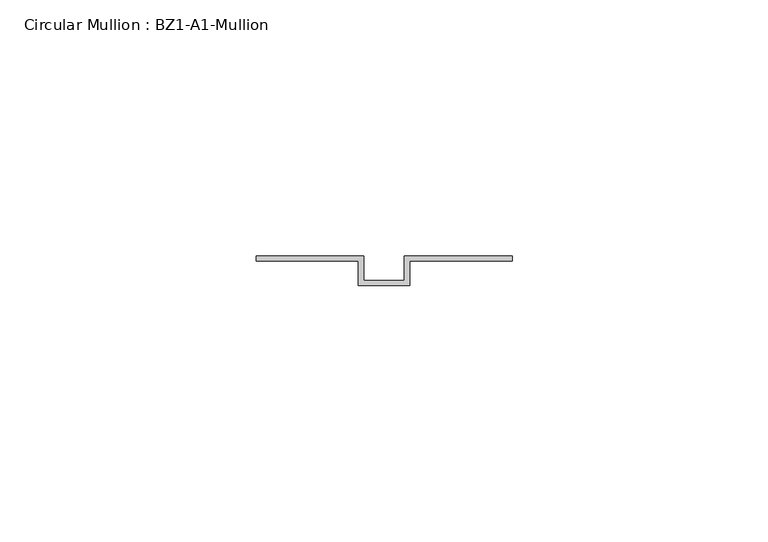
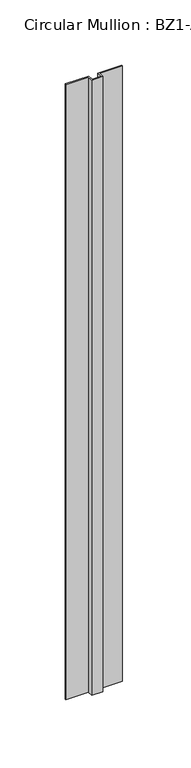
"""IFC4 building model written with IfcOpenShell, lengths in millimetres: member geometry, Circular Mullion : BZ1-A1-Mullion."""

import ifcopenshell
import ifcopenshell.guid

model = None  # the IFC model being written
_history = None  # IfcOwnerHistory: only IFC2X3 demands one
_inside = {}  # id of a spatial element -> (the spatial element, [elements in it])
_under = {}  # id of a project, library or spatial element -> (it, [spatial elements below it])
_declared = {}  # id of a project -> (the project, [libraries it declares])
_typed = {}  # id of a type object -> (the type object, [elements of that type])
_made_of = {}  # id of a material, layer set ... -> (it, [elements and type objects made of it])


def new_model(schema):
    """Start an empty IFC model of exactly this schema.

    Asked for "IFC4X3", IfcOpenShell would pick the latest addendum, in which some entities
    have other attributes; the version numbers below select the first issue.
    IFC2X3 requires an IfcOwnerHistory on every rooted entity: one is made here for all.
    """
    global model, _history
    if schema == "IFC4X3":
        model = ifcopenshell.file(schema_version=(4, 3, 0, 0))
    else:
        model = ifcopenshell.file(schema=schema)
    _inside.clear()
    _under.clear()
    _declared.clear()
    _typed.clear()
    _made_of.clear()
    _history = None
    if model.schema == "IFC2X3":
        org = make("IfcOrganization", Name="unknown")
        user = make(
            "IfcPersonAndOrganization",
            ThePerson=make("IfcPerson", FamilyName="unknown"),
            TheOrganization=org,
        )
        app = make(
            "IfcApplication",
            ApplicationDeveloper=org,
            Version="unknown",
            ApplicationFullName="unknown",
            ApplicationIdentifier="unknown",
        )
        _history = make(
            "IfcOwnerHistory",
            OwningUser=user,
            OwningApplication=app,
            ChangeAction="ADDED",
            CreationDate=0,
        )
    return model


def make(cls, **values):
    """One entity of the class cls with the attributes given. An attribute that is None is left unset."""
    return model.create_entity(
        cls, **{name: value for name, value in values.items() if value is not None}
    )


def rooted(cls, **values):
    """An entity with a GlobalId (a new one), such as an element, a storey or a relation."""
    return make(cls, GlobalId=ifcopenshell.guid.new(), OwnerHistory=_history, **values)


def si_unit(unit_type, name, prefix=None):
    """IfcSIUnit, for example si_unit("LENGTHUNIT", "METRE", prefix="MILLI")."""
    return make("IfcSIUnit", UnitType=unit_type, Prefix=prefix, Name=name)


def assignment(units):
    """IfcUnitAssignment: the units of a project."""
    return None if units is None else make("IfcUnitAssignment", Units=units)


def point(xyz):
    """IfcCartesianPoint."""
    return None if xyz is None else make("IfcCartesianPoint", Coordinates=xyz)


def direction(xyz):
    """IfcDirection."""
    return None if xyz is None else make("IfcDirection", DirectionRatios=xyz)


def frame(location, z_axis=None, x_axis=None):
    """IfcAxis2Placement3D, a coordinate frame: its origin and axes. An axis left out is left unset."""
    return make(
        "IfcAxis2Placement3D",
        Location=point(location),
        Axis=direction(z_axis),
        RefDirection=direction(x_axis),
    )


def origin():
    """The frame at (0, 0, 0) with its axes left unset."""
    return frame((0.0, 0.0, 0.0))


def place(relative_to, where):
    """IfcLocalPlacement: puts the frame where relative to a parent placement (None: the world)."""
    return make(
        "IfcLocalPlacement", PlacementRelTo=relative_to, RelativePlacement=where
    )


def context(
    kind, dimensions, precision=None, world=None, true_north=None, identifier=None
):
    """IfcGeometricRepresentationContext, for example the 3D "Model" context."""
    return make(
        "IfcGeometricRepresentationContext",
        ContextIdentifier=identifier,
        ContextType=kind,
        CoordinateSpaceDimension=dimensions,
        Precision=precision,
        WorldCoordinateSystem=world,
        TrueNorth=true_north,
    )


def project(units=None, contexts=None):
    """IfcProject with its units and contexts."""
    return rooted(
        "IfcProject",
        Name="project",
        RepresentationContexts=contexts,
        UnitsInContext=assignment(units),
    )


def spatial(cls, under=None, at=None, **own):
    """A site, building, storey or space (cls), placed at a placement, below another one or the project."""
    s = rooted(cls, ObjectPlacement=at, **own)
    if under is not None:
        _under.setdefault(under.id(), (under, []))[1].append(s)
    return s


def polyline(points):
    """IfcPolyline through the points."""
    return make("IfcPolyline", Points=[point(p) for p in points])


def outline(outer, holes=None, kind="AREA"):
    """IfcArbitraryClosedProfileDef: a profile drawn as a closed curve; with holes, ...WithVoids."""
    if holes is None:
        return make("IfcArbitraryClosedProfileDef", ProfileType=kind, OuterCurve=outer)
    return make(
        "IfcArbitraryProfileDefWithVoids",
        ProfileType=kind,
        OuterCurve=outer,
        InnerCurves=holes,
    )


def extrude(swept, where, along, depth):
    """IfcExtrudedAreaSolid: the profile swept, set in the frame where, extruded along a direction by depth."""
    return make(
        "IfcExtrudedAreaSolid",
        SweptArea=swept,
        Position=where,
        ExtrudedDirection=direction(along),
        Depth=depth,
    )


def shape(context_of_items, identifier, shape_type, items):
    """IfcShapeRepresentation: the items that make up one representation, for example the "Body"."""
    return make(
        "IfcShapeRepresentation",
        ContextOfItems=context_of_items,
        RepresentationIdentifier=identifier,
        RepresentationType=shape_type,
        Items=items,
    )


def source(mapping_origin, context_of_items, identifier, shape_type, items):
    """IfcRepresentationMap: a shape defined once, which mapped items show again and again."""
    return make(
        "IfcRepresentationMap",
        MappingOrigin=mapping_origin,
        MappedRepresentation=shape(context_of_items, identifier, shape_type, items),
    )


def transform(
    local_origin,
    x_axis=None,
    y_axis=None,
    z_axis=None,
    scale=None,
    scale2=None,
    scale3=None,
    uniform=True,
):
    """IfcCartesianTransformationOperator3D, or its non-uniform kind. x_axis, y_axis, z_axis: its Axis1, 2, 3."""
    if uniform:
        return make(
            "IfcCartesianTransformationOperator3D",
            Axis1=direction(x_axis),
            Axis2=direction(y_axis),
            LocalOrigin=point(local_origin),
            Scale=scale,
            Axis3=direction(z_axis),
        )
    return make(
        "IfcCartesianTransformationOperator3DnonUniform",
        Axis1=direction(x_axis),
        Axis2=direction(y_axis),
        LocalOrigin=point(local_origin),
        Scale=scale,
        Axis3=direction(z_axis),
        Scale2=scale2,
        Scale3=scale3,
    )


def mapped(mapping_source, mapping_target):
    """IfcMappedItem: shows the shape of a source again, moved by a transform."""
    return make(
        "IfcMappedItem", MappingSource=mapping_source, MappingTarget=mapping_target
    )


def made_of(thing, what):
    """Note that an element or type object is made of a material, layer set ...; save() writes the relation."""
    if what is not None:
        _made_of.setdefault(what.id(), (what, []))[1].append(thing)
    return thing


def element(
    cls,
    number,
    at=None,
    inside=None,
    cuts=None,
    type_object=None,
    material=None,
    context=None,
    identifier="Body",
    shape_type=None,
    held_by="IfcProductDefinitionShape",
    body=None,
    shapes=None,
    **own,
):
    """One element of the class cls, such as IfcWall. Its Tag is "e" and its number.

    at: its placement. inside: the storey or other place that contains it. cuts: it is an
    opening in that element (IfcRelVoidsElement). A single representation is given by context,
    identifier, shape_type and body (its items); several are given by shapes. held_by: the class
    of the entity that holds the representations. save() writes the other relations.
    """
    e = rooted(cls, Tag="e%d" % number, ObjectPlacement=at, **own)
    if body is not None:
        shapes = [shape(context, identifier, shape_type, body)]
    if shapes is not None:
        e.Representation = make(held_by, Representations=shapes)
    if inside is not None:
        _inside.setdefault(inside.id(), (inside, []))[1].append(e)
    if cuts is not None:
        rooted(
            "IfcRelVoidsElement", RelatingBuildingElement=cuts, RelatedOpeningElement=e
        )
    if type_object is not None:
        _typed.setdefault(type_object.id(), (type_object, []))[1].append(e)
    return made_of(e, material)


def aggregate(whole, parts):
    """IfcRelAggregates: a whole, such as a stair, and the parts it consists of."""
    return rooted("IfcRelAggregates", RelatingObject=whole, RelatedObjects=parts)


def save(model, path):
    """Write the relations noted so far, then the file.

    IfcRelAggregates (storeys below a building ...), IfcRelContainedInSpatialStructure (elements
    in a storey), IfcRelDefinesByType, IfcRelAssociatesMaterial and IfcRelDeclares: one each for
    every whole, place, type object, material and project.
    """
    for whole, parts in _under.values():
        aggregate(whole, parts)
    for where, things in _inside.values():
        rooted(
            "IfcRelContainedInSpatialStructure",
            RelatedElements=things,
            RelatingStructure=where,
        )
    for kind, things in _typed.values():
        rooted("IfcRelDefinesByType", RelatedObjects=things, RelatingType=kind)
    for what, things in _made_of.values():
        rooted("IfcRelAssociatesMaterial", RelatedObjects=things, RelatingMaterial=what)
    for by, libraries in _declared.values():
        rooted("IfcRelDeclares", RelatingContext=by, RelatedDefinitions=libraries)
    model.write(path)


def circular_mullion_bz1_a1_mullion_729713d3(model_context):
    return source(origin(), model_context, "Body", "SweptSolid", [
        extrude(outline(polyline([(-25.0, 11.0), (-4.0, 11.0), (-4.0, 6.2), (4.0, 6.2), (4.0, 11.0), (25.0, 11.0), (25.0, 10.0), (5.0, 10.0), (5.0, 5.2), (-5.0, 5.2), (-5.0, 10.0), (-25.0, 10.0), (-25.0, 11.0)])), frame((0.0, 0.0, -576.1677311), z_axis=(0.0, 0.0, 1.0), x_axis=(1.0, 0.0, 0.0)), (0.0, 0.0, 1.0), 576.1677311),
    ])


if __name__ == "__main__":
    model = new_model("IFC4")
    model_context = context("Model", 3, world=origin())
    ifc_project = project(units=[si_unit("LENGTHUNIT", "METRE", prefix="MILLI")], contexts=[model_context])
    site = spatial("IfcSite", under=ifc_project)
    building = spatial("IfcBuilding", under=site)
    placement = place(None, origin())
    circular_mullion_bz1_a1_mullion_shape = circular_mullion_bz1_a1_mullion_729713d3(model_context)
    element("IfcMember", 1, ObjectType="Circular Mullion : BZ1-A1-Mullion", at=placement, inside=building, context=model_context, shape_type="MappedRepresentation", body=[
        mapped(circular_mullion_bz1_a1_mullion_shape, transform((0.0, 0.0, 0.0), x_axis=(1.0, 0.0, 0.0), y_axis=(0.0, 1.0, 0.0), z_axis=(0.0, 0.0, 1.0))),
    ])
    save(model, "model.ifc")
